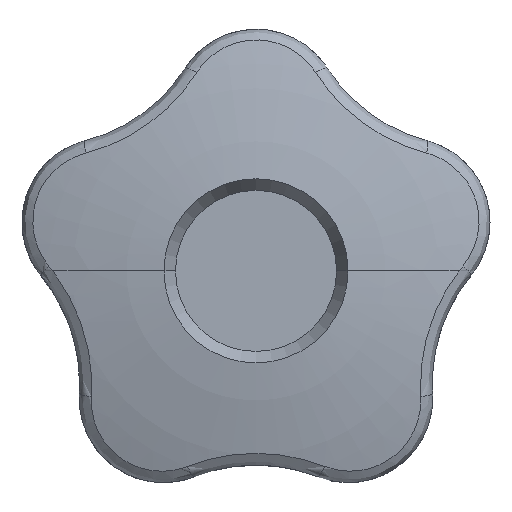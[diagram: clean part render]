
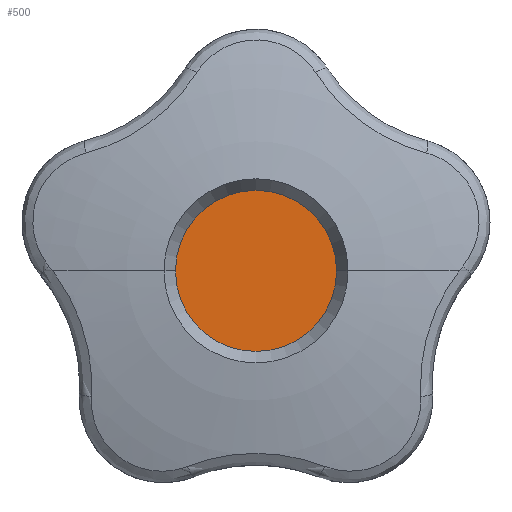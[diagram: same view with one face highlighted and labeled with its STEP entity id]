
A CAD part, top view. The second image highlights one B-rep face of the part: STEP entity #500.
In plain terms, the highlighted planar face has unit normal (0, 0, 1).
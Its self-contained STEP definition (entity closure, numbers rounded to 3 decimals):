
#337 = CARTESIAN_POINT ( 'NONE',  ( 0., 0., 34.5 ) ) ;
#500 = ADVANCED_FACE ( 'NONE', ( #1203 ), #1734, .T. ) ;
#525 = EDGE_CURVE ( 'NONE', #646, #3605, #2687, .T. ) ;
#646 = VERTEX_POINT ( 'NONE', #1459 ) ;
#935 = CARTESIAN_POINT ( 'NONE',  ( 0., 0., 34.5 ) ) ;
#1203 = FACE_OUTER_BOUND ( 'NONE', #1777, .T. ) ;
#1240 = CIRCLE ( 'NONE', #3357, 10.5 ) ;
#1287 = EDGE_CURVE ( 'NONE', #3605, #646, #1240, .T. ) ;
#1459 = CARTESIAN_POINT ( 'NONE',  ( 10.5, 0., 34.5 ) ) ;
#1619 = DIRECTION ( 'NONE',  ( -1., 0., 0. ) ) ;
#1651 = CARTESIAN_POINT ( 'NONE',  ( -10.5, 0., 34.5 ) ) ;
#1734 = PLANE ( 'NONE',  #2141 ) ;
#1777 = EDGE_LOOP ( 'NONE', ( #2054, #2865 ) ) ;
#2014 = DIRECTION ( 'NONE',  ( 0., 0., 1. ) ) ;
#2054 = ORIENTED_EDGE ( 'NONE', *, *, #1287, .T. ) ;
#2091 = DIRECTION ( 'NONE',  ( -1., 0., 0. ) ) ;
#2141 = AXIS2_PLACEMENT_3D ( 'NONE', #935, #2014, #2091 ) ;
#2146 = CARTESIAN_POINT ( 'NONE',  ( 0., 0., 34.5 ) ) ;
#2687 = CIRCLE ( 'NONE', #2749, 10.5 ) ;
#2749 = AXIS2_PLACEMENT_3D ( 'NONE', #337, #2923, #3185 ) ;
#2865 = ORIENTED_EDGE ( 'NONE', *, *, #525, .T. ) ;
#2923 = DIRECTION ( 'NONE',  ( 0., 0., 1. ) ) ;
#3185 = DIRECTION ( 'NONE',  ( -1., 0., 0. ) ) ;
#3357 = AXIS2_PLACEMENT_3D ( 'NONE', #2146, #3569, #1619 ) ;
#3569 = DIRECTION ( 'NONE',  ( 0., 0., 1. ) ) ;
#3605 = VERTEX_POINT ( 'NONE', #1651 ) ;
